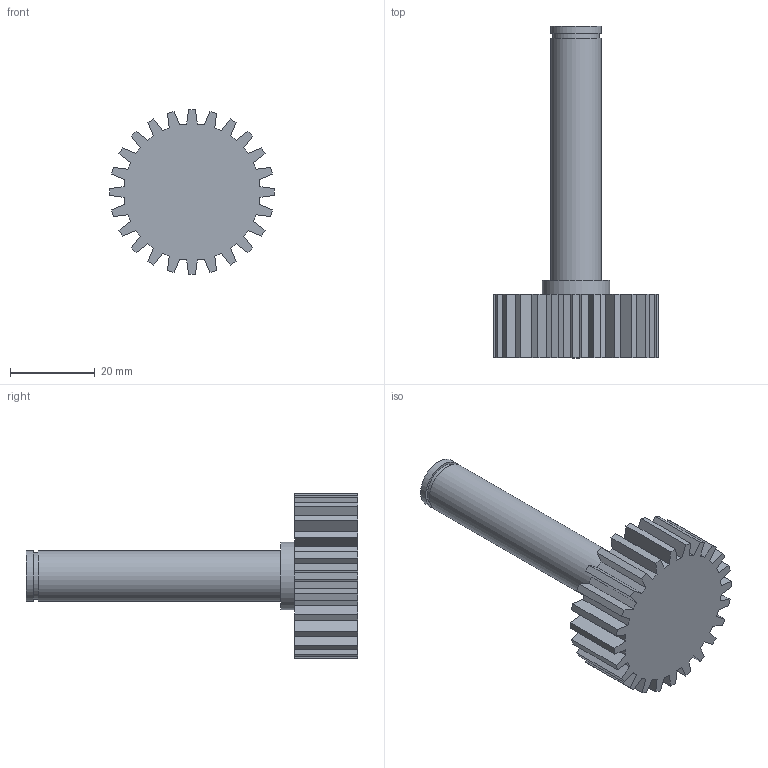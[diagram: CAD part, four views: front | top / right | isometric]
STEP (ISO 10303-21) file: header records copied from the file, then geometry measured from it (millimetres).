
FILE_DESCRIPTION(('Open CASCADE Model'),'2;1');
FILE_NAME('Open CASCADE Shape Model','2026-10-18T22:58:44',('Author'),( 'Open CASCADE'),'Open CASCADE STEP processor 7.9','Open CASCADE 7.9' ,'Unknown');
FILE_SCHEMA(('AUTOMOTIVE_DESIGN { 1 0 10303 214 1 1 1 1 }'));
Length unit declared in the file: millimetre
Products named in the file (1): Open CASCADE STEP translator 7.9 38
Bounding box: 38.97 x 78.5 x 38.97 mm (x, y, z)
Volume: 22215.8 mm3; surface area: 8110 mm2
Topology: 1 solids, 1 shells, 106 faces, 300 edges, 200 vertices
Faces by surface type: plane 102, cylinder 4
Full cylindrical faces by diameter (mm): 10.9 x1, 12 x2, 16 x1
Entity records: 7282 total; most frequent: CARTESIAN_POINT 1207, DIRECTION 1122, LINE 884, VECTOR 884, ORIENTED_EDGE 600, PCURVE 600, DEFINITIONAL_REPRESENTATION 600, EDGE_CURVE 300
